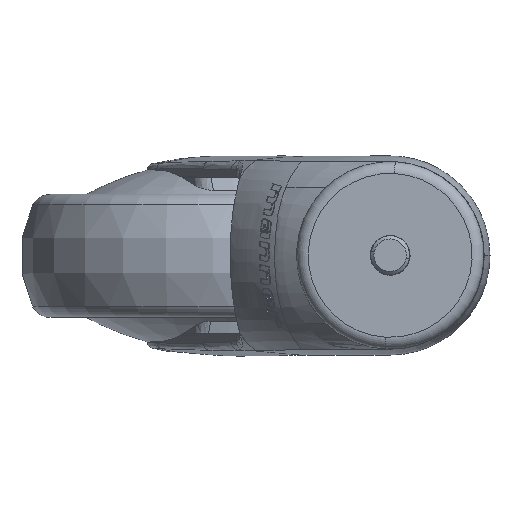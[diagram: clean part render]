
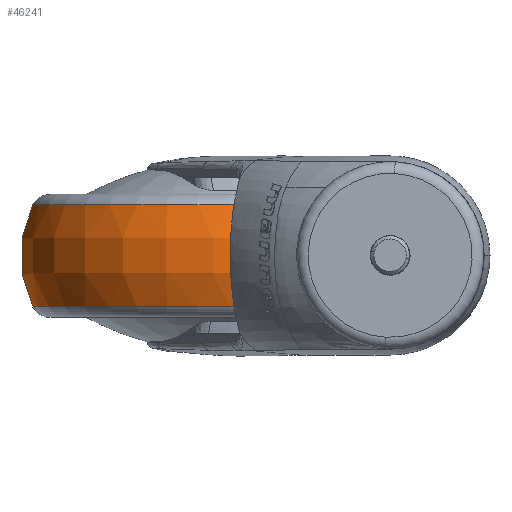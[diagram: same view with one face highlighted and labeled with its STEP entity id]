
A CAD part, top view. The second image highlights one B-rep face of the part: STEP entity #46241.
In plain terms, the highlighted toroidal (fillet/blend) face has major radius 22 mm and minor radius 28 mm.
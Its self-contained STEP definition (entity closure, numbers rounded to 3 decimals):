
#33629 = CARTESIAN_POINT ( 'NONE',  ( -83.282, 13.088, -7.95 ) ) ;
#33630 = CARTESIAN_POINT ( 'NONE',  ( -6.874, 13.088, 45.95 ) ) ;
#33651 = CARTESIAN_POINT ( 'NONE',  ( -83.282, -13.088, -7.95 ) ) ;
#33652 = DIRECTION ( 'NONE',  ( 0.817, 0., 0.576 ) ) ;
#33653 = DIRECTION ( 'NONE',  ( 0., 1., 0. ) ) ;
#33654 = CARTESIAN_POINT ( 'NONE',  ( -45.078, -13.088, 19. ) ) ;
#33655 = AXIS2_PLACEMENT_3D ( 'NONE', #33654, #33653, #33652 ) ;
#33656 = CIRCLE ( 'NONE', #33655, 46.753 ) ;
#33712 = CARTESIAN_POINT ( 'NONE',  ( -6.874, -13.088, 45.95 ) ) ;
#33720 = DIRECTION ( 'NONE',  ( 0.817, 0., 0.576 ) ) ;
#33721 = DIRECTION ( 'NONE',  ( 0., 1., 0. ) ) ;
#33722 = CARTESIAN_POINT ( 'NONE',  ( -45.078, 13.088, 19. ) ) ;
#33723 = AXIS2_PLACEMENT_3D ( 'NONE', #33722, #33721, #33720 ) ;
#33724 = CIRCLE ( 'NONE', #33723, 46.753 ) ;
#33725 = DIRECTION ( 'NONE',  ( 0.817, 0., 0.576 ) ) ;
#33726 = DIRECTION ( 'NONE',  ( 0., 1., 0. ) ) ;
#33727 = AXIS2_PLACEMENT_3D ( 'NONE', #33734, #33726, #33725 ) ;
#33728 = TOROIDAL_SURFACE ( 'NONE', #33727, 22., 28. ) ;
#33729 = FACE_OUTER_BOUND ( 'NONE', #46242, .T. ) ;
#33734 = CARTESIAN_POINT ( 'NONE',  ( -45.078, 0., 19. ) ) ;
#33749 = DIRECTION ( 'NONE',  ( 0.817, 0., 0.576 ) ) ;
#33750 = DIRECTION ( 'NONE',  ( -0.576, 0., 0.817 ) ) ;
#33751 = CARTESIAN_POINT ( 'NONE',  ( -27.101, 0., 31.682 ) ) ;
#33752 = AXIS2_PLACEMENT_3D ( 'NONE', #33751, #33750, #33749 ) ;
#33753 = CIRCLE ( 'NONE', #33752, 28. ) ;
#33754 = DIRECTION ( 'NONE',  ( -0.817, 0., -0.576 ) ) ;
#33755 = DIRECTION ( 'NONE',  ( 0.576, 0., -0.817 ) ) ;
#33756 = CARTESIAN_POINT ( 'NONE',  ( -63.055, 0., 6.318 ) ) ;
#33757 = AXIS2_PLACEMENT_3D ( 'NONE', #33756, #33755, #33754 ) ;
#33758 = CIRCLE ( 'NONE', #33757, 28. ) ;
#46198 = VERTEX_POINT ( 'NONE', #33630 ) ;
#46199 = VERTEX_POINT ( 'NONE', #33629 ) ;
#46218 = EDGE_CURVE ( 'NONE', #46219, #46220, #33656, .T. ) ;
#46219 = VERTEX_POINT ( 'NONE', #33651 ) ;
#46220 = VERTEX_POINT ( 'NONE', #33712 ) ;
#46241 = ADVANCED_FACE ( 'NONE', ( #33729 ), #33728, .T. ) ;
#46242 = EDGE_LOOP ( 'NONE', ( #46243, #46244, #46245, #46246 ) ) ;
#46243 = ORIENTED_EDGE ( 'NONE', *, *, #46262, .F. ) ;
#46244 = ORIENTED_EDGE ( 'NONE', *, *, #46218, .T. ) ;
#46245 = ORIENTED_EDGE ( 'NONE', *, *, #46265, .T. ) ;
#46246 = ORIENTED_EDGE ( 'NONE', *, *, #46247, .F. ) ;
#46247 = EDGE_CURVE ( 'NONE', #46199, #46198, #33724, .T. ) ;
#46262 = EDGE_CURVE ( 'NONE', #46219, #46199, #33758, .T. ) ;
#46265 = EDGE_CURVE ( 'NONE', #46220, #46198, #33753, .T. ) ;
